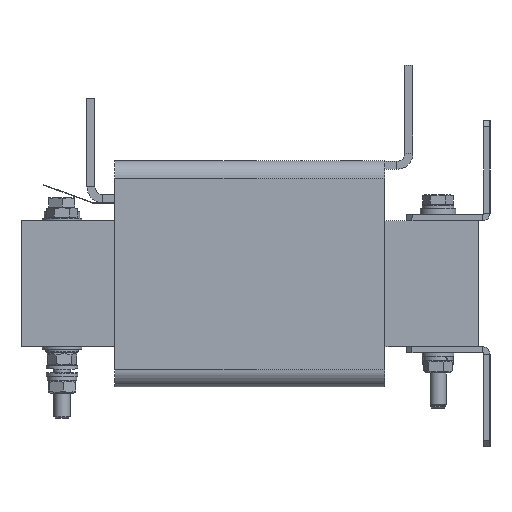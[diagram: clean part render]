
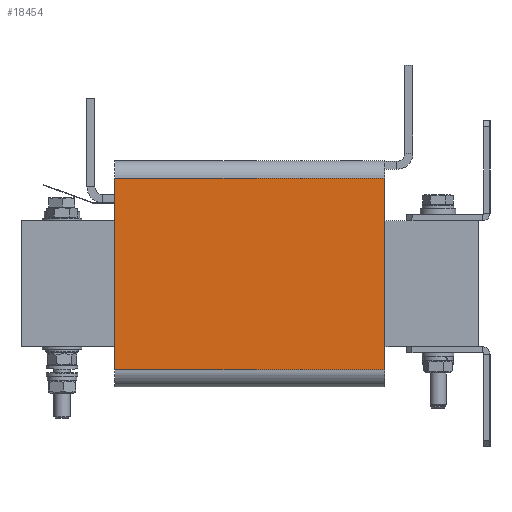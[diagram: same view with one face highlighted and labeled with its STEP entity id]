
A CAD part, left-side view. The second image highlights one B-rep face of the part: STEP entity #18454.
In plain terms, the highlighted planar face has unit normal (-1, 0, 0).
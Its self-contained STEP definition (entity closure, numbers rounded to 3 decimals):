
#1755=LINE('',#29971,#3425);
#1761=LINE('',#29990,#3431);
#1768=LINE('',#30004,#3438);
#1769=LINE('',#30006,#3439);
#3425=VECTOR('',#23930,10.);
#3431=VECTOR('',#23946,10.);
#3438=VECTOR('',#23963,10.);
#3439=VECTOR('',#23966,10.);
#4159=PLANE('',#19802);
#5625=FACE_OUTER_BOUND('',#6844,.T.);
#6844=EDGE_LOOP('',(#15743,#15744,#15745,#15746));
#9019=VERTEX_POINT('',#29968);
#9020=VERTEX_POINT('',#29970);
#9027=VERTEX_POINT('',#29987);
#9028=VERTEX_POINT('',#29989);
#11325=EDGE_CURVE('',#9019,#9020,#1755,.T.);
#11335=EDGE_CURVE('',#9027,#9028,#1761,.T.);
#11344=EDGE_CURVE('',#9028,#9019,#1768,.T.);
#11345=EDGE_CURVE('',#9027,#9020,#1769,.T.);
#15743=ORIENTED_EDGE('',*,*,#11344,.F.);
#15744=ORIENTED_EDGE('',*,*,#11335,.F.);
#15745=ORIENTED_EDGE('',*,*,#11345,.T.);
#15746=ORIENTED_EDGE('',*,*,#11325,.F.);
#18454=ADVANCED_FACE('',(#5625),#4159,.T.);
#19802=AXIS2_PLACEMENT_3D('',#30005,#23964,#23965);
#23930=DIRECTION('',(0.,0.,-1.));
#23946=DIRECTION('',(0.,0.,1.));
#23963=DIRECTION('',(0.,-1.,0.));
#23964=DIRECTION('center_axis',(-1.,0.,0.));
#23965=DIRECTION('ref_axis',(0.,0.,1.));
#23966=DIRECTION('',(0.,-1.,0.));
#29968=CARTESIAN_POINT('',(-139.,-67.5,52.9));
#29970=CARTESIAN_POINT('',(-139.,-67.5,-42.9));
#29971=CARTESIAN_POINT('',(-139.,-67.5,52.9));
#29987=CARTESIAN_POINT('',(-139.,67.5,-42.9));
#29989=CARTESIAN_POINT('',(-139.,67.5,52.9));
#29990=CARTESIAN_POINT('',(-139.,67.5,52.9));
#30004=CARTESIAN_POINT('',(-139.,0.,52.9));
#30005=CARTESIAN_POINT('Origin',(-139.,0.,-42.9));
#30006=CARTESIAN_POINT('',(-139.,0.,-42.9));
